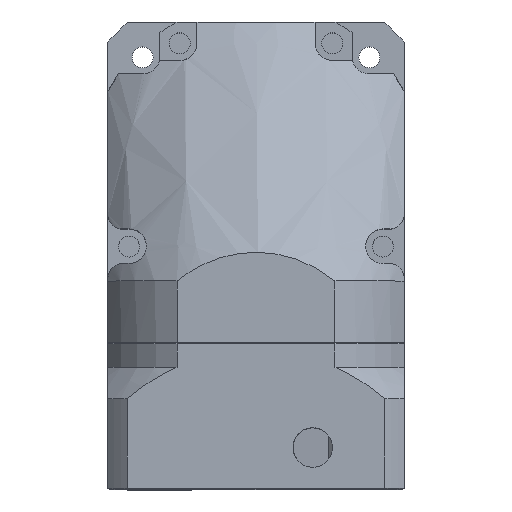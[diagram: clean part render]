
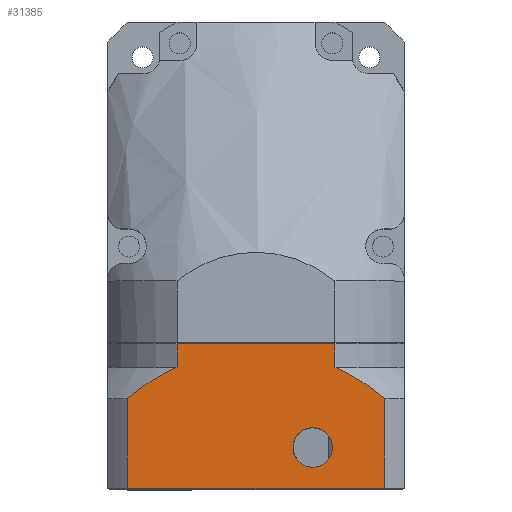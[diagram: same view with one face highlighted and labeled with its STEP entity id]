
A CAD part, top view. The second image highlights one B-rep face of the part: STEP entity #31385.
In plain terms, the highlighted planar face has unit normal (0, 0, 1).
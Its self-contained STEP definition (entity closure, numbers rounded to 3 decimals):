
#150 = EDGE_CURVE ( 'NONE', #15107, #27010, #28641, .T. ) ;
#196 = LINE ( 'NONE', #32179, #23556 ) ;
#1227 = AXIS2_PLACEMENT_3D ( 'NONE', #13483, #13422, #13345 ) ;
#1623 = EDGE_CURVE ( 'NONE', #27010, #15107, #4133, .T. ) ;
#1643 = LINE ( 'NONE', #16987, #17336 ) ;
#3071 = CARTESIAN_POINT ( 'NONE',  ( 0., 52.156, 60. ) ) ;
#4133 = CIRCLE ( 'NONE', #1227, 8. ) ;
#5966 = VECTOR ( 'NONE', #10913, 1000. ) ;
#7202 = EDGE_CURVE ( 'NONE', #29647, #31364, #196, .T. ) ;
#7255 = EDGE_CURVE ( 'NONE', #29647, #7642, #23474, .T. ) ;
#7642 = VERTEX_POINT ( 'NONE', #12096 ) ;
#7962 = DIRECTION ( 'NONE',  ( 0., -1., 0. ) ) ;
#7963 = CARTESIAN_POINT ( 'NONE',  ( 0., 32., 60. ) ) ;
#8045 = DIRECTION ( 'NONE',  ( 0., 0., -1. ) ) ;
#8145 = CARTESIAN_POINT ( 'NONE',  ( 42.5, 23., 60. ) ) ;
#9008 = CARTESIAN_POINT ( 'NONE',  ( 10., 32., 60. ) ) ;
#9235 = EDGE_LOOP ( 'NONE', ( #17897, #19164 ) ) ;
#9615 = VECTOR ( 'NONE', #23576, 1000. ) ;
#10228 = DIRECTION ( 'NONE',  ( 0., 1., 0. ) ) ;
#10471 = CARTESIAN_POINT ( 'NONE',  ( 20.045, 49.114, 60. ) ) ;
#10498 = EDGE_LOOP ( 'NONE', ( #14248, #14693, #14764, #15964, #16382, #17244, #17608, #17647 ) ) ;
#10913 = DIRECTION ( 'NONE',  ( -1., 0., 0. ) ) ;
#10915 = CARTESIAN_POINT ( 'NONE',  ( 0., -52.156, 60. ) ) ;
#12096 = CARTESIAN_POINT ( 'NONE',  ( 22.66, -52.156, 60. ) ) ;
#12263 = EDGE_CURVE ( 'NONE', #34236, #22262, #24247, .T. ) ;
#12786 = VERTEX_POINT ( 'NONE', #9008 ) ;
#12795 = PLANE ( 'NONE',  #23600 ) ;
#13345 = DIRECTION ( 'NONE',  ( 0., -1., 0. ) ) ;
#13422 = DIRECTION ( 'NONE',  ( 0., 0., -1. ) ) ;
#13483 = CARTESIAN_POINT ( 'NONE',  ( 42.5, 23., 60. ) ) ;
#14184 = VECTOR ( 'NONE', #31278, 1000. ) ;
#14248 = ORIENTED_EDGE ( 'NONE', *, *, #7202, .F. ) ;
#14693 = ORIENTED_EDGE ( 'NONE', *, *, #7255, .T. ) ;
#14764 = ORIENTED_EDGE ( 'NONE', *, *, #36494, .T. ) ;
#15107 = VERTEX_POINT ( 'NONE', #33654 ) ;
#15758 = DIRECTION ( 'NONE',  ( 0., -1., 0. ) ) ;
#15964 = ORIENTED_EDGE ( 'NONE', *, *, #31756, .T. ) ;
#16382 = ORIENTED_EDGE ( 'NONE', *, *, #12263, .T. ) ;
#16399 = EDGE_CURVE ( 'NONE', #22262, #12786, #23733, .T. ) ;
#16525 = CARTESIAN_POINT ( 'NONE',  ( 11.605, 35.677, 60. ) ) ;
#16987 = CARTESIAN_POINT ( 'NONE',  ( 0.5, -60., 60. ) ) ;
#17244 = ORIENTED_EDGE ( 'NONE', *, *, #16399, .T. ) ;
#17336 = VECTOR ( 'NONE', #37205, 1000. ) ;
#17608 = ORIENTED_EDGE ( 'NONE', *, *, #22904, .T. ) ;
#17647 = ORIENTED_EDGE ( 'NONE', *, *, #37188, .F. ) ;
#17897 = ORIENTED_EDGE ( 'NONE', *, *, #150, .T. ) ;
#19164 = ORIENTED_EDGE ( 'NONE', *, *, #1623, .T. ) ;
#20067 = CARTESIAN_POINT ( 'NONE',  ( 10., -32., 60. ) ) ;
#20723 = CARTESIAN_POINT ( 'NONE',  ( 42.5, 31., 60. ) ) ;
#21884 = LINE ( 'NONE', #10915, #14184 ) ;
#21956 = CARTESIAN_POINT ( 'NONE',  ( 59., -52.156, 60. ) ) ;
#22041 = FACE_OUTER_BOUND ( 'NONE', #10498, .T. ) ;
#22262 = VERTEX_POINT ( 'NONE', #33917 ) ;
#22904 = EDGE_CURVE ( 'NONE', #12786, #36135, #36932, .T. ) ;
#23474 = B_SPLINE_CURVE_WITH_KNOTS ( 'NONE', 3,
 ( #29064, #29141, #30947, #29019, #28979 ),
 .UNSPECIFIED., .F., .F.,
 ( 4, 1, 4 ),
 ( 0., 0.012, 0.024 ),
 .UNSPECIFIED. ) ;
#23556 = VECTOR ( 'NONE', #32129, 1000. ) ;
#23576 = DIRECTION ( 'NONE',  ( -1., 0., 0. ) ) ;
#23600 = AXIS2_PLACEMENT_3D ( 'NONE', #35879, #33102, #15758 ) ;
#23733 = B_SPLINE_CURVE_WITH_KNOTS ( 'NONE', 3,
 ( #28094, #10471, #33868, #16525, #36747 ),
 .UNSPECIFIED., .F., .F.,
 ( 4, 1, 4 ),
 ( 0., 0.012, 0.024 ),
 .UNSPECIFIED. ) ;
#24247 = LINE ( 'NONE', #3071, #9615 ) ;
#26935 = CARTESIAN_POINT ( 'NONE',  ( 59., 52.156, 60. ) ) ;
#27010 = VERTEX_POINT ( 'NONE', #20723 ) ;
#27736 = CARTESIAN_POINT ( 'NONE',  ( 59., -60., 60. ) ) ;
#28026 = VECTOR ( 'NONE', #10228, 1000. ) ;
#28094 = CARTESIAN_POINT ( 'NONE',  ( 22.66, 52.156, 60. ) ) ;
#28641 = CIRCLE ( 'NONE', #34234, 8. ) ;
#28979 = CARTESIAN_POINT ( 'NONE',  ( 22.66, -52.156, 60. ) ) ;
#29019 = CARTESIAN_POINT ( 'NONE',  ( 20.045, -49.114, 60. ) ) ;
#29064 = CARTESIAN_POINT ( 'NONE',  ( 10., -32., 60. ) ) ;
#29141 = CARTESIAN_POINT ( 'NONE',  ( 11.605, -35.677, 60. ) ) ;
#29647 = VERTEX_POINT ( 'NONE', #20067 ) ;
#29790 = FACE_BOUND ( 'NONE', #9235, .T. ) ;
#29839 = LINE ( 'NONE', #27736, #28026 ) ;
#30947 = CARTESIAN_POINT ( 'NONE',  ( 15.328, -42.708, 60. ) ) ;
#31278 = DIRECTION ( 'NONE',  ( 1., 0., 0. ) ) ;
#31364 = VERTEX_POINT ( 'NONE', #32993 ) ;
#31385 = ADVANCED_FACE ( 'NONE', ( #22041, #29790 ), #12795, .T. ) ;
#31486 = VERTEX_POINT ( 'NONE', #21956 ) ;
#31756 = EDGE_CURVE ( 'NONE', #31486, #34236, #29839, .T. ) ;
#32129 = DIRECTION ( 'NONE',  ( -1., 0., 0. ) ) ;
#32179 = CARTESIAN_POINT ( 'NONE',  ( 0., -32., 60. ) ) ;
#32203 = CARTESIAN_POINT ( 'NONE',  ( 0.5, 32., 60. ) ) ;
#32993 = CARTESIAN_POINT ( 'NONE',  ( 0.5, -32., 60. ) ) ;
#33102 = DIRECTION ( 'NONE',  ( 0., 0., 1. ) ) ;
#33654 = CARTESIAN_POINT ( 'NONE',  ( 42.5, 15., 60. ) ) ;
#33868 = CARTESIAN_POINT ( 'NONE',  ( 15.328, 42.708, 60. ) ) ;
#33917 = CARTESIAN_POINT ( 'NONE',  ( 22.66, 52.156, 60. ) ) ;
#34234 = AXIS2_PLACEMENT_3D ( 'NONE', #8145, #8045, #7962 ) ;
#34236 = VERTEX_POINT ( 'NONE', #26935 ) ;
#35879 = CARTESIAN_POINT ( 'NONE',  ( 0., -60., 60. ) ) ;
#36135 = VERTEX_POINT ( 'NONE', #32203 ) ;
#36494 = EDGE_CURVE ( 'NONE', #7642, #31486, #21884, .T. ) ;
#36747 = CARTESIAN_POINT ( 'NONE',  ( 10., 32., 60. ) ) ;
#36932 = LINE ( 'NONE', #7963, #5966 ) ;
#37188 = EDGE_CURVE ( 'NONE', #31364, #36135, #1643, .T. ) ;
#37205 = DIRECTION ( 'NONE',  ( 0., 1., 0. ) ) ;
